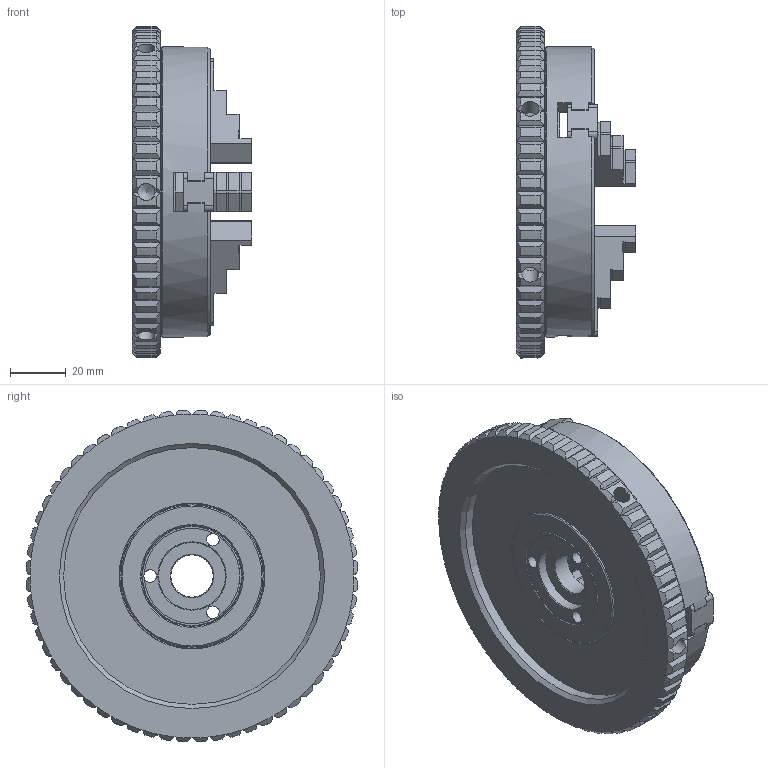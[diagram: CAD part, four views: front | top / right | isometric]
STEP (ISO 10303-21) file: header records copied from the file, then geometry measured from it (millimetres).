
FILE_DESCRIPTION(/* description */ ('Distanzring'),/* implementation_level */ '2;1');
FILE_NAME(/* name */ 'D:\03 Projekte\Futtervariationen\(2) Dateien für Webseite\DBF100\DBF100_00-00 Dreibackenfutter DBF100.iam.stp',/* time_stamp */ '2022-01-27T15:16:07+01:00',/* author */ ('D. Pustolla'),/* organization */ (''),/* preprocessor_version */ 'ST-DEVELOPER v15.2',/* originating_system */ 'Autodesk Inventor 2014',/* authorisation */ '');
FILE_SCHEMA (('AUTOMOTIVE_DESIGN { 1 0 10303 214 3 1 1 }'));
Length unit declared in the file: millimetre
Products named in the file (7): DBF100_00-10 Distanzring; DBF100_00-12 Spannring; DBF100_00-13 Futterkörper; DBF100_00-14 Spannbacken 1; DBF100_00-15 Spannbacken 2; DBF100_00-16 Spannbacken 3; DBF100_00-00 Dreibackenfutter DBF100
Bounding box: 42.7 x 118.96 x 118.96 mm (x, y, z)
Volume: 207147.3 mm3; surface area: 71714.2 mm2
Topology: 6 solids, 12 shells, 639 faces, 1580 edges, 967 vertices
Faces by surface type: plane 362, cone 156, cylinder 121
Full cylindrical faces by diameter (mm): 2.9 x6, 3 x6, 4.5 x3, 5 x6, 6.1 x6, 8 x3, 15.2 x1, 24 x1, 35.8 x1, 36 x3, 39 x1, 51 x1, 51.8 x1, 90 x1, 91 x1, 92 x1, 104 x1
Entity records: 18612 total; most frequent: CARTESIAN_POINT 3716, DIRECTION 2940, ORIENTED_EDGE 2932, EDGE_CURVE 1466, AXIS2_PLACEMENT_3D 1086, VERTEX_POINT 926, LINE 768, VECTOR 768
